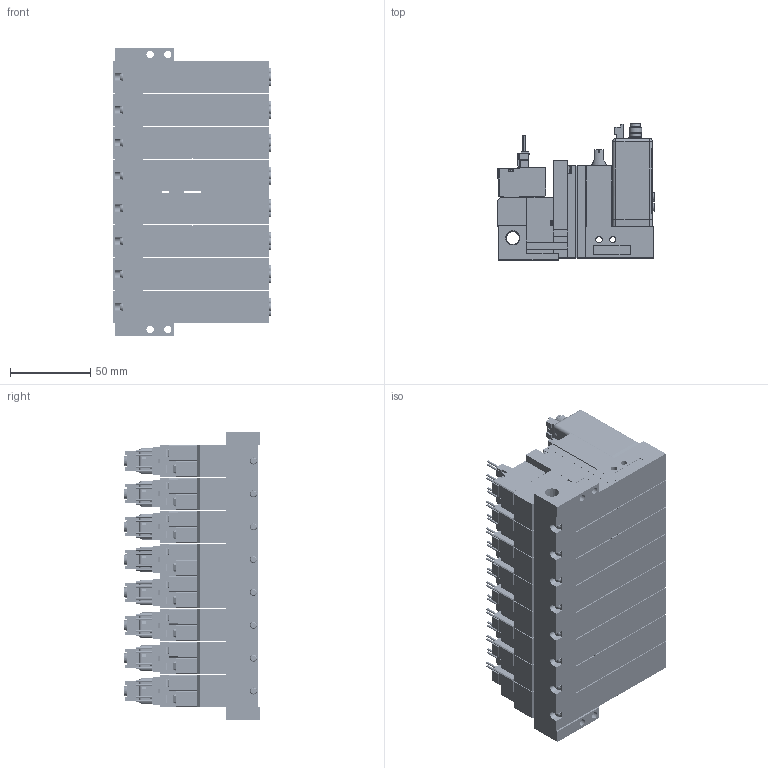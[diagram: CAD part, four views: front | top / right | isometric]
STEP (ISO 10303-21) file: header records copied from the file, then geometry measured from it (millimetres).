
FILE_DESCRIPTION(('STEP AP203'),'1');
FILE_NAME('22_22PLC5ALR808.stp','2025-06-12T05:23:40',(' '),(' '),'Spatial InterOp 3D',' ',' ');
FILE_SCHEMA(('CONFIG_CONTROL_DESIGN'));
Length unit declared in the file: millimetre
Products named in the file (12): BMC22M※※※※22_22PLC5ALR808; Solenoid valve A; Unit LC; Base MR80R; MVS-202
Assembly tree (25 placements, depth 2):
  BMC22M※※※※22_22PLC5ALR808
    Solenoid valve A  x8
    Unit LC  x8
    Base MR80R
    MVS-202
    MVS-202
    MVS-202
    MVS-202
    MVS-202
    MVS-202
    MVS-202
    MVS-202
Bounding box: 98.5 x 84.6 x 179.5 mm (x, y, z)
Volume: 875005.3 mm3; surface area: 248409.6 mm2
Topology: 25 solids, 57 shells, 6453 faces, 16827 edges, 10968 vertices
Faces by surface type: plane 5438, cylinder 789, cone 130, torus 64, sphere 32
Full cylindrical faces by diameter (mm): 1 x32, 1.4 x32, 1.5 x8, 2.5 x8, 3 x32, 3.5 x32, 3.6 x8, 4 x16, 4.134 x8, 4.5 x36, 4.8 x24, 5 x16, 5.2 x8, 5.8 x16, 6 x16, 6.5 x24, 6.6 x8, 7 x8, 7.2 x8, 7.9 x8, 8 x16, 8.279 x1
Entity records: 115201 total; most frequent: CARTESIAN_POINT 20762, ORIENTED_EDGE 18842, DIRECTION 18613, EDGE_CURVE 9421, LINE 7941, VECTOR 7941, VERTEX_POINT 6369, AXIS2_PLACEMENT_3D 5336
